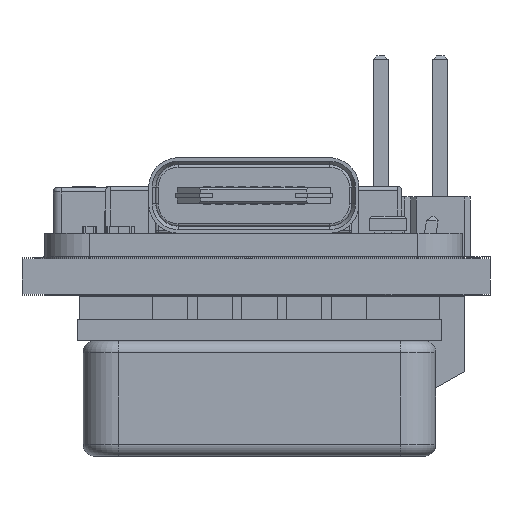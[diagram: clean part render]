
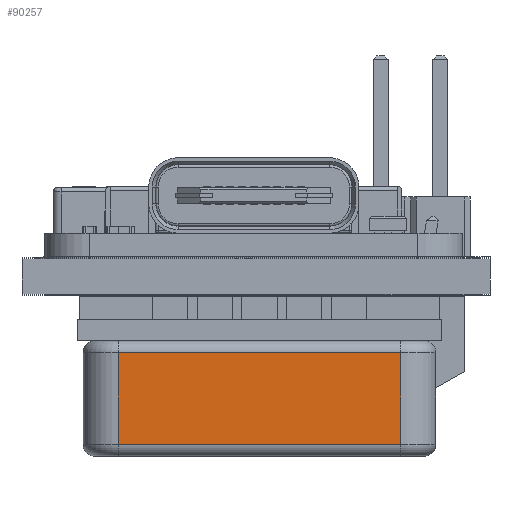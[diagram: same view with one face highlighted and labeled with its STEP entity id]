
A CAD part, front view. The second image highlights one B-rep face of the part: STEP entity #90257.
In plain terms, the highlighted planar face has unit normal (0, -1, 0) as drawn and (0, 0, 1) by its records, which use the part's own axes.
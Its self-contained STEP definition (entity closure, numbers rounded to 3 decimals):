
#90230 = VERTEX_POINT('',#90231);
#90231 = CARTESIAN_POINT('',(-6.,2.4,7.5));
#90238 = EDGE_CURVE('',#90239,#90230,#90241,.T.);
#90239 = VERTEX_POINT('',#90240);
#90240 = CARTESIAN_POINT('',(-6.,6.3,7.5));
#90241 = LINE('',#90242,#90243);
#90242 = CARTESIAN_POINT('',(-6.,34.813,7.5));
#90243 = VECTOR('',#90244,1.);
#90244 = DIRECTION('',(-0.,-1.,-0.));
#90257 = ADVANCED_FACE('',(#90258),#90283,.F.);
#90258 = FACE_BOUND('',#90259,.T.);
#90259 = EDGE_LOOP('',(#90260,#90261,#90269,#90277));
#90260 = ORIENTED_EDGE('',*,*,#90238,.T.);
#90261 = ORIENTED_EDGE('',*,*,#90262,.T.);
#90262 = EDGE_CURVE('',#90230,#90263,#90265,.T.);
#90263 = VERTEX_POINT('',#90264);
#90264 = CARTESIAN_POINT('',(6.,2.4,7.5));
#90265 = LINE('',#90266,#90267);
#90266 = CARTESIAN_POINT('',(6.,2.4,7.5));
#90267 = VECTOR('',#90268,1.);
#90268 = DIRECTION('',(1.,0.,0.));
#90269 = ORIENTED_EDGE('',*,*,#90270,.F.);
#90270 = EDGE_CURVE('',#90271,#90263,#90273,.T.);
#90271 = VERTEX_POINT('',#90272);
#90272 = CARTESIAN_POINT('',(6.,6.3,7.5));
#90273 = LINE('',#90274,#90275);
#90274 = CARTESIAN_POINT('',(6.,34.813,7.5));
#90275 = VECTOR('',#90276,1.);
#90276 = DIRECTION('',(-0.,-1.,-0.));
#90277 = ORIENTED_EDGE('',*,*,#90278,.T.);
#90278 = EDGE_CURVE('',#90271,#90239,#90279,.T.);
#90279 = LINE('',#90280,#90281);
#90280 = CARTESIAN_POINT('',(-6.,6.3,7.5));
#90281 = VECTOR('',#90282,1.);
#90282 = DIRECTION('',(-1.,-0.,-0.));
#90283 = PLANE('',#90284);
#90284 = AXIS2_PLACEMENT_3D('',#90285,#90286,#90287);
#90285 = CARTESIAN_POINT('',(-6.,34.813,7.5));
#90286 = DIRECTION('',(0.,0.,-1.));
#90287 = DIRECTION('',(-1.,0.,-0.));
